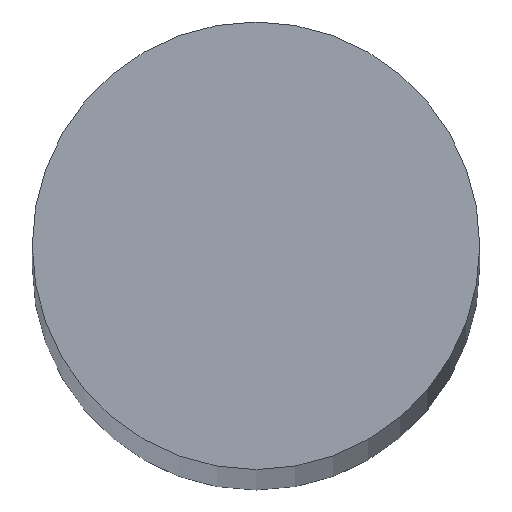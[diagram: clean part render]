
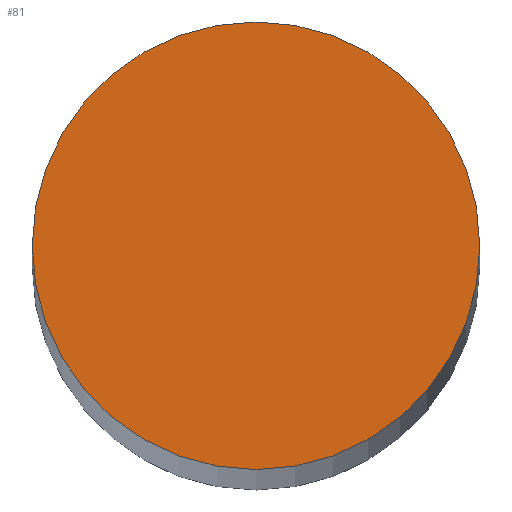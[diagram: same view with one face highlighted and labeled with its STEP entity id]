
A CAD part, top view. The second image highlights one B-rep face of the part: STEP entity #81.
In plain terms, the highlighted planar face has unit normal (0, 0, 1).
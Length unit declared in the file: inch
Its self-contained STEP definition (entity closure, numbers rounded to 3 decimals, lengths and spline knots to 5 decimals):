
#2 = EDGE_CURVE ( 'NONE', #59, #110, #12, .T. ) ;
#11 = ORIENTED_EDGE ( 'NONE', *, *, #2, .T. ) ;
#12 = CIRCLE ( 'NONE', #175, 0.0625 ) ;
#22 = CARTESIAN_POINT ( 'NONE',  ( 0., 0., 1.66535 ) ) ;
#36 = FACE_OUTER_BOUND ( 'NONE', #133, .T. ) ;
#49 = EDGE_CURVE ( 'NONE', #110, #59, #148, .T. ) ;
#59 = VERTEX_POINT ( 'NONE', #143 ) ;
#67 = DIRECTION ( 'NONE',  ( 1., 0., 0. ) ) ;
#68 = DIRECTION ( 'NONE',  ( 0., 0., 1. ) ) ;
#72 = AXIS2_PLACEMENT_3D ( 'NONE', #89, #118, #125 ) ;
#79 = DIRECTION ( 'NONE',  ( 0., 0., 1. ) ) ;
#81 = ADVANCED_FACE ( 'NONE', ( #36 ), #138, .T. ) ;
#84 = AXIS2_PLACEMENT_3D ( 'NONE', #157, #79, #94 ) ;
#89 = CARTESIAN_POINT ( 'NONE',  ( 0., 0., 1.66535 ) ) ;
#94 = DIRECTION ( 'NONE',  ( 1., 0., 0. ) ) ;
#110 = VERTEX_POINT ( 'NONE', #173 ) ;
#118 = DIRECTION ( 'NONE',  ( 0., 0., 1. ) ) ;
#125 = DIRECTION ( 'NONE',  ( 1., 0., 0. ) ) ;
#133 = EDGE_LOOP ( 'NONE', ( #136, #11 ) ) ;
#136 = ORIENTED_EDGE ( 'NONE', *, *, #49, .T. ) ;
#138 = PLANE ( 'NONE',  #72 ) ;
#143 = CARTESIAN_POINT ( 'NONE',  ( 0.0625, 0., 1.66535 ) ) ;
#148 = CIRCLE ( 'NONE', #84, 0.0625 ) ;
#157 = CARTESIAN_POINT ( 'NONE',  ( 0., 0., 1.66535 ) ) ;
#173 = CARTESIAN_POINT ( 'NONE',  ( -0.0625, 0., 1.66535 ) ) ;
#175 = AXIS2_PLACEMENT_3D ( 'NONE', #22, #68, #67 ) ;
